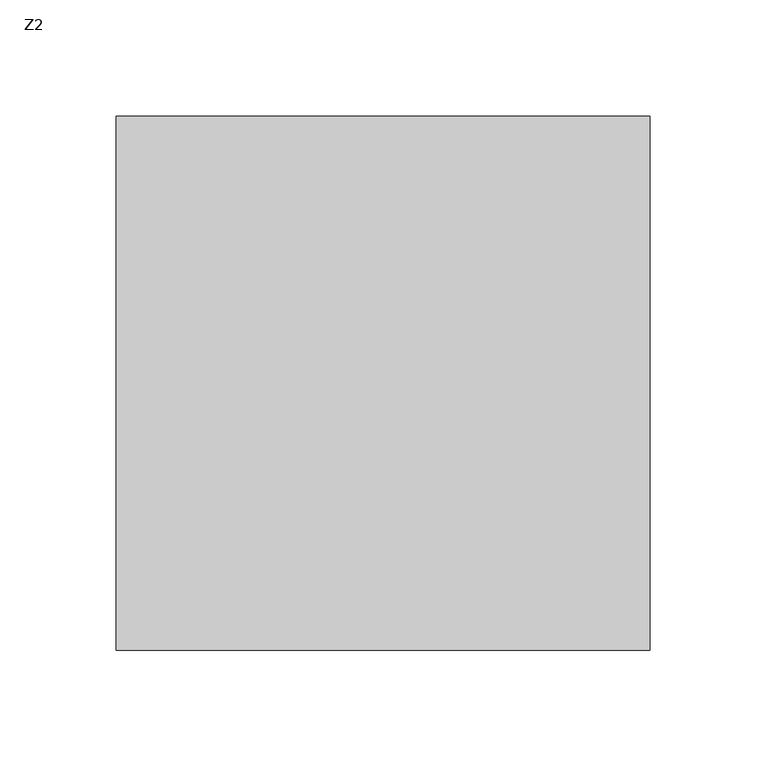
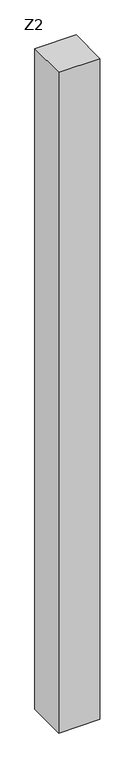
"""IFC4 building model written with IfcOpenShell, lengths in millimetres: column geometry, 混凝土 - 矩形 - 柱 : Z2."""

from ifc_helpers import new_model, si_unit, origin, origin_with_axes, place, context, project, spatial, polyline, outline, extrude, source, transform, mapped, element, save


def z2_bccf5c95(model_context):
    return source(origin(), model_context, "Body", "SweptSolid", [
        extrude(outline(polyline([(115.0, -115.0), (-115.0, -115.0), (-115.0, 115.0), (115.0, 115.0), (115.0, -115.0)])), origin_with_axes(), (0.0, 0.0, 1.0), 3900.0),
    ])


if __name__ == "__main__":
    model = new_model("IFC4")
    model_context = context("Model", 3, world=origin())
    ifc_project = project(units=[si_unit("LENGTHUNIT", "METRE", prefix="MILLI")], contexts=[model_context])
    site = spatial("IfcSite", under=ifc_project)
    building = spatial("IfcBuilding", under=site)
    placement = place(None, origin())
    z2_shape = z2_bccf5c95(model_context)
    element("IfcColumn", 1, ObjectType="混凝土 - 矩形 - 柱 : Z2", at=placement, inside=building, context=model_context, shape_type="MappedRepresentation", body=[
        mapped(z2_shape, transform((0.0, 0.0, 0.0), x_axis=(1.0, 0.0, 0.0), y_axis=(0.0, 1.0, 0.0), z_axis=(0.0, 0.0, 1.0))),
    ])
    save(model, "model.ifc")
